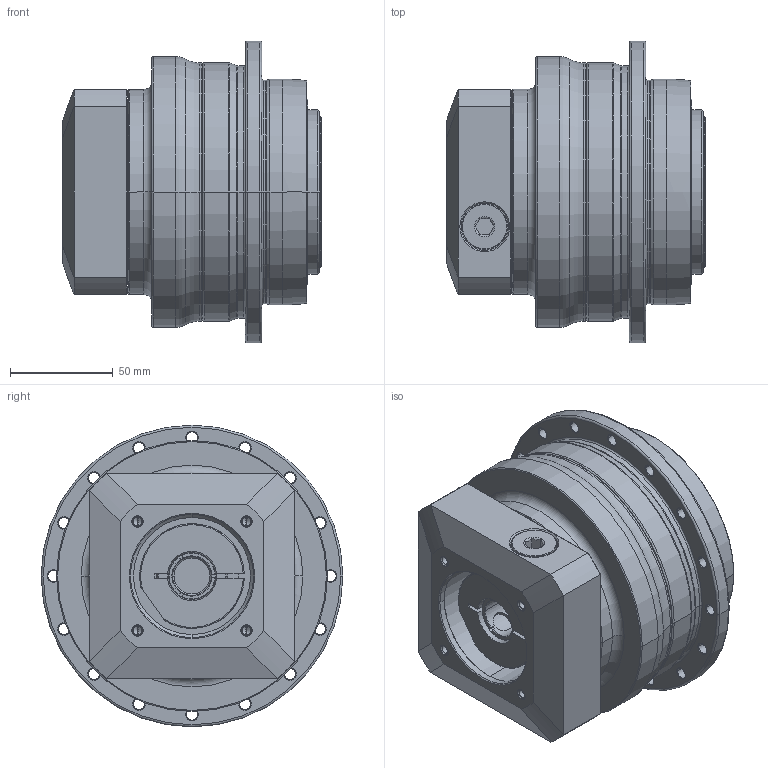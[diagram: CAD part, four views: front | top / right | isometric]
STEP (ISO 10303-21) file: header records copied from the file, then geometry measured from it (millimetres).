
FILE_DESCRIPTION((''),'2;1');
FILE_NAME('AP110_1ST_19-P0409410201_ASM','2018-05-21T',('d01226'),(''),'PRO/ENGINEER BY PARAMETRIC TECHNOLOGY CORPORATION, 2008410','PRO/ENGINEER BY PARAMETRIC TECHNOLOGY CORPORATION, 2008410','');
FILE_SCHEMA(('CONFIG_CONTROL_DESIGN'));
Length unit declared in the file: millimetre
Products named in the file (9): P0278401003; P0359401103; P1318410001; P0503400008; P0912400001; P1211400002; P0409410201; 21711416017; AP110_1ST_19-P0409410201_ASM
Assembly tree (8 placements, depth 2):
  AP110_1ST_19-P0409410201_ASM
    P0278401003
    P0359401103
    P1318410001
    P0503400008
    P0912400001
    P1211400002
    P0409410201
    21711416017
Bounding box: 126 x 147 x 147 mm (x, y, z)
Volume: 1135496.9 mm3; surface area: 193653.1 mm2
Topology: 9 solids, 30 shells, 563 faces, 1299 edges, 798 vertices
Faces by surface type: cylinder 232, cone 148, plane 99, torus 70, bspline 14
Entity records: 20865 total; most frequent: CARTESIAN_POINT 7401, DIRECTION 3091, ORIENTED_EDGE 2496, AXIS2_PLACEMENT_3D 1323, EDGE_CURVE 1291, VERTEX_POINT 798, CIRCLE 747, EDGE_LOOP 689
